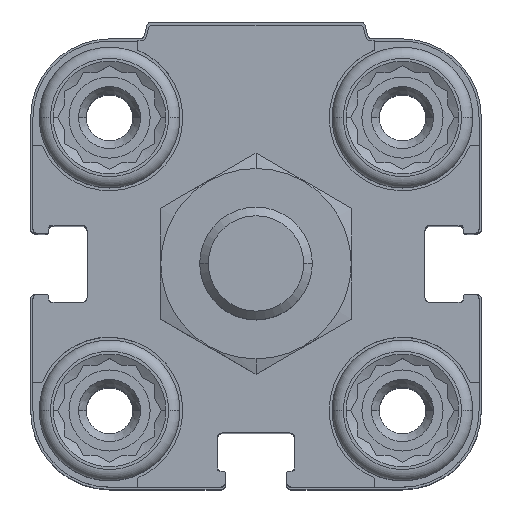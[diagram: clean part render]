
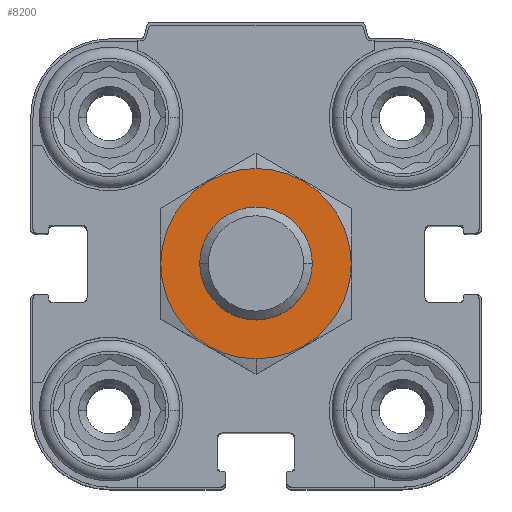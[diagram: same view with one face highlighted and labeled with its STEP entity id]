
A CAD part, top view. The second image highlights one B-rep face of the part: STEP entity #8200.
In plain terms, the highlighted planar face has unit normal (0, 0, 1).
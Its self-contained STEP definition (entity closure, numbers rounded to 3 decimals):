
#337 = CIRCLE ( 'NONE', #11334, 8.45 ) ;
#709 = CIRCLE ( 'NONE', #9871, 8.45 ) ;
#1845 = PLANE ( 'NONE',  #14052 ) ;
#2341 = DIRECTION ( 'NONE',  ( 0., -1., 0. ) ) ;
#2384 = CARTESIAN_POINT ( 'NONE',  ( 0., -8.45, 14.5 ) ) ;
#2930 = ORIENTED_EDGE ( 'NONE', *, *, #18602, .F. ) ;
#3080 = DIRECTION ( 'NONE',  ( 0., 0., -1. ) ) ;
#3387 = ORIENTED_EDGE ( 'NONE', *, *, #15324, .F. ) ;
#4851 = AXIS2_PLACEMENT_3D ( 'NONE', #11145, #9425, #2341 ) ;
#5377 = VERTEX_POINT ( 'NONE', #17698 ) ;
#5534 = CARTESIAN_POINT ( 'NONE',  ( 0., 0., 14.5 ) ) ;
#5641 = VERTEX_POINT ( 'NONE', #7069 ) ;
#5642 = VERTEX_POINT ( 'NONE', #8690 ) ;
#6137 = CARTESIAN_POINT ( 'NONE',  ( 0., 0., 14.5 ) ) ;
#6315 = DIRECTION ( 'NONE',  ( 0., -1., 0. ) ) ;
#6962 = AXIS2_PLACEMENT_3D ( 'NONE', #6137, #11968, #6315 ) ;
#7069 = CARTESIAN_POINT ( 'NONE',  ( 0., 5., 14.5 ) ) ;
#7247 = DIRECTION ( 'NONE',  ( 0., 0., -1. ) ) ;
#8200 = ADVANCED_FACE ( 'NONE', ( #10535, #14946 ), #1845, .F. ) ;
#8690 = CARTESIAN_POINT ( 'NONE',  ( 0., -5., 14.5 ) ) ;
#9425 = DIRECTION ( 'NONE',  ( 0., 0., -1. ) ) ;
#9871 = AXIS2_PLACEMENT_3D ( 'NONE', #5534, #7247, #18541 ) ;
#10072 = DIRECTION ( 'NONE',  ( 0., -1., 0. ) ) ;
#10245 = DIRECTION ( 'NONE',  ( 0., -1., 0. ) ) ;
#10535 = FACE_OUTER_BOUND ( 'NONE', #18060, .T. ) ;
#11067 = EDGE_CURVE ( 'NONE', #5641, #5642, #15220, .T. ) ;
#11138 = CARTESIAN_POINT ( 'NONE',  ( 0., 0., 14.5 ) ) ;
#11145 = CARTESIAN_POINT ( 'NONE',  ( 0., 0., 14.5 ) ) ;
#11334 = AXIS2_PLACEMENT_3D ( 'NONE', #11138, #15536, #10072 ) ;
#11687 = EDGE_CURVE ( 'NONE', #5642, #5641, #13100, .T. ) ;
#11968 = DIRECTION ( 'NONE',  ( 0., 0., -1. ) ) ;
#12862 = EDGE_LOOP ( 'NONE', ( #13032, #18435 ) ) ;
#13032 = ORIENTED_EDGE ( 'NONE', *, *, #11067, .T. ) ;
#13100 = CIRCLE ( 'NONE', #4851, 5. ) ;
#14052 = AXIS2_PLACEMENT_3D ( 'NONE', #16088, #3080, #10245 ) ;
#14946 = FACE_BOUND ( 'NONE', #12862, .T. ) ;
#15220 = CIRCLE ( 'NONE', #6962, 5. ) ;
#15324 = EDGE_CURVE ( 'NONE', #17257, #5377, #337, .T. ) ;
#15536 = DIRECTION ( 'NONE',  ( 0., 0., -1. ) ) ;
#16088 = CARTESIAN_POINT ( 'NONE',  ( 0., 0., 14.5 ) ) ;
#17257 = VERTEX_POINT ( 'NONE', #2384 ) ;
#17698 = CARTESIAN_POINT ( 'NONE',  ( 0., 8.45, 14.5 ) ) ;
#18060 = EDGE_LOOP ( 'NONE', ( #3387, #2930 ) ) ;
#18435 = ORIENTED_EDGE ( 'NONE', *, *, #11687, .T. ) ;
#18541 = DIRECTION ( 'NONE',  ( 0., -1., 0. ) ) ;
#18602 = EDGE_CURVE ( 'NONE', #5377, #17257, #709, .T. ) ;
